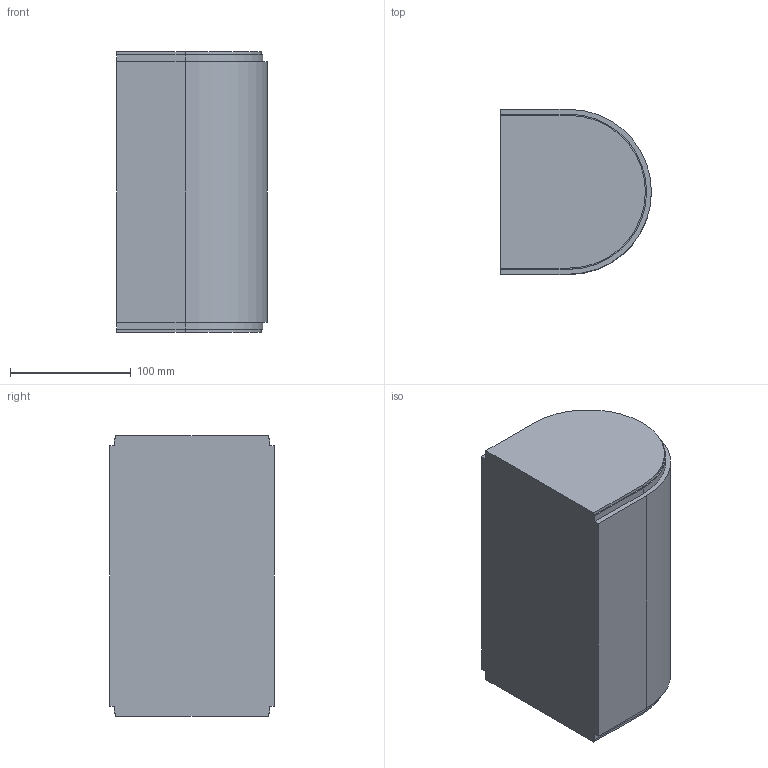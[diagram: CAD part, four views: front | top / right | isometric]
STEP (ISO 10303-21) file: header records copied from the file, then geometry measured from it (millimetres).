
FILE_DESCRIPTION (( 'STEP AP214' ), '1' );
FILE_NAME ('FS-MTC2-150-INOX Aandrijving & omloop.230 omloop.STEP', '2017-02-08T12:38:32', ( '' ), ( '' ), 'SwSTEP 2.0', 'SolidWorks 2016', '' );
FILE_SCHEMA (( 'AUTOMOTIVE_DESIGN' ));
Length unit declared in the file: millimetre
Products named in the file (1): FS-MTC2-150-INOX Aandrijving & omloop.230 omloop
Bounding box: 125 x 136.5 x 232.5 mm (x, y, z)
Volume: 3479278.7 mm3; surface area: 137735.6 mm2
Topology: 1 solids, 1 shells, 22 faces, 60 edges, 40 vertices
Faces by surface type: plane 17, cylinder 5
Entity records: 728 total; most frequent: CARTESIAN_POINT 123, ORIENTED_EDGE 120, DIRECTION 116, EDGE_CURVE 60, VECTOR 50, LINE 50, VERTEX_POINT 40, AXIS2_PLACEMENT_3D 33
